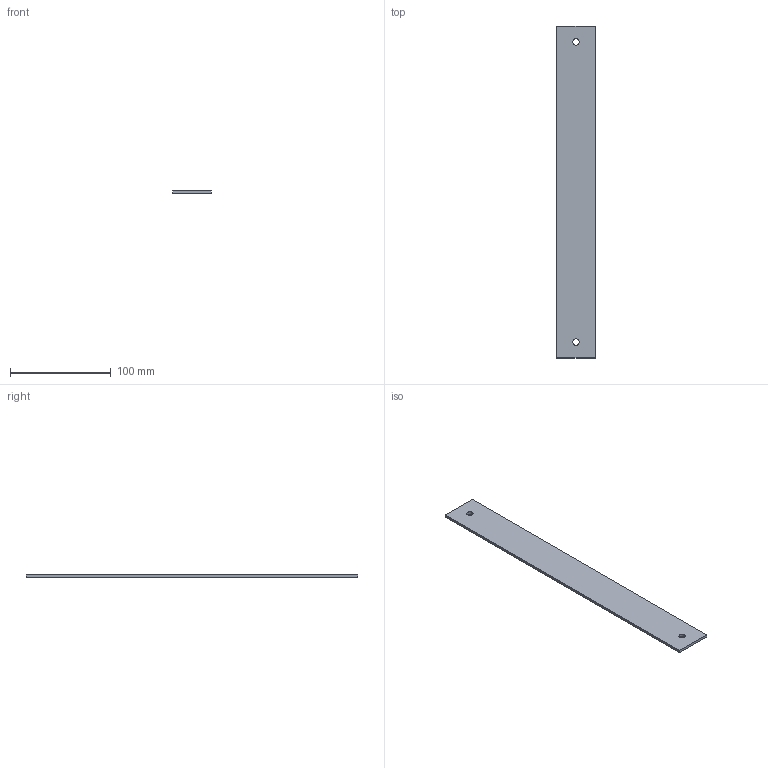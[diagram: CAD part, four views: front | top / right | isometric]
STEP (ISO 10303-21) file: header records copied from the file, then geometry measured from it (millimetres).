
FILE_DESCRIPTION((''),'1');
FILE_NAME('1','2001-04-18T',('jlue'),(''),'PRO/ENGINEER BY PARAMETRIC TECHNOLOGY CORPORATION, 9846','PRO/ENGINEER BY PARAMETRIC TECHNOLOGY CORPORATION, 9846','');
FILE_SCHEMA(('CONFIG_CONTROL_DESIGN'));
Length unit declared in the file: inch
Products named in the file (1): 1
Bounding box: 38.1 x 330.2 x 2.66 mm (x, y, z)
Surface area: 27097.6 mm2 (no closed solid volume)
Topology: 0 solids, 0 shells, 10 faces, 50 edges, 52 vertices
Faces by surface type: plane 6, cylinder 4
Entity records: 306 total; most frequent: DIRECTION 54, COMPOSITE_CURVE_SEGMENT 48, CARTESIAN_POINT 36, TRIMMED_CURVE 26, AXIS2_PLACEMENT_3D 18, VECTOR 18, LINE 18, CURVE_BOUNDED_SURFACE 10
